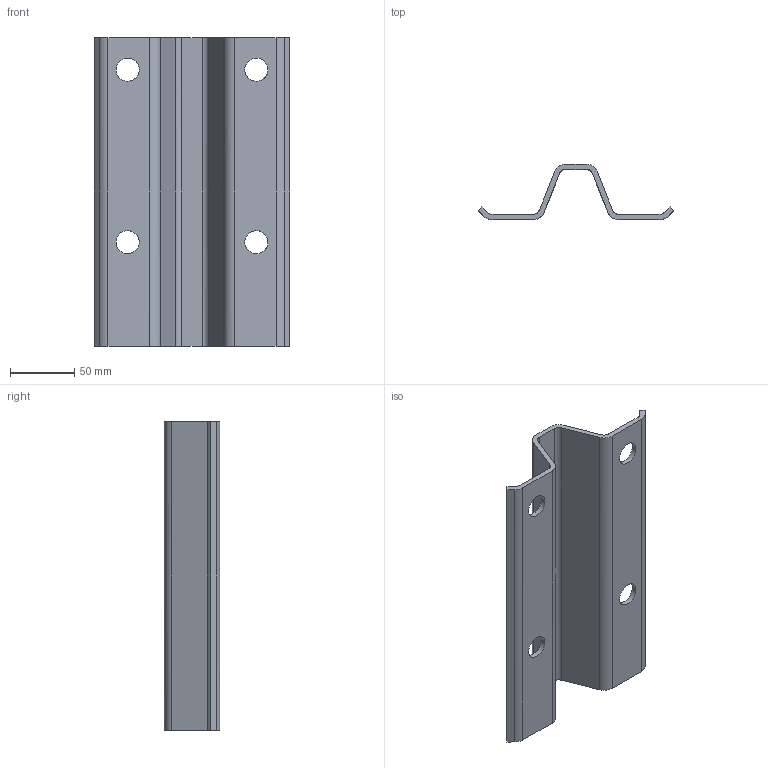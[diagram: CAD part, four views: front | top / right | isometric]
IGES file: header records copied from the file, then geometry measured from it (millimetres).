
Global section: file name: C285; native system: Autodesk RealDWG; preprocessor: Autodesk Translation Framework DWG producer (atf_dwg_producer); organization: unknown; date: 20230703.111224; units: centimetre
Bounding box: 151.72 x 43 x 240 mm (x, y, z)
Volume: 189674.6 mm3; surface area: 99280.7 mm2
Topology: 1 solids, 1 shells, 34 faces, 96 edges, 64 vertices
Faces by surface type: bspline 34
